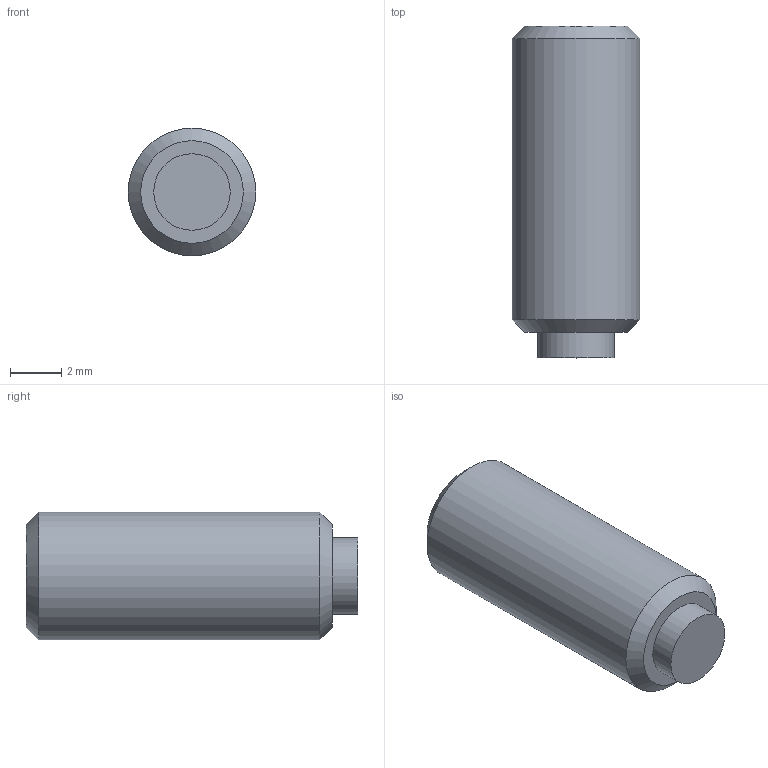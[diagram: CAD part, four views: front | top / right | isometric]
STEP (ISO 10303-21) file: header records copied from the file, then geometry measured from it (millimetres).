
FILE_DESCRIPTION( ( 'STEP AP203' ), '1' );
FILE_NAME( 'C:/Temp/Ganter_Step_05_03_2020/data/3_2/gn913_3/Grub screw GN 913.3-M5-12-KU.stp', '2020-03-13T05:35:34', ( 'License CC BY-ND 4.0' ), ( 'CADENAS' ), ' ', 'PARTsolutions', ' ' );
FILE_SCHEMA( ( 'CONFIG_CONTROL_DESIGN' ) );
Length unit declared in the file: millimetre
Products named in the file (1): _Grub screw GN 913.3-M5-12-KU
Bounding box: 5 x 13 x 5 mm (x, y, z)
Volume: 222.9 mm3; surface area: 253.5 mm2
Topology: 1 solids, 1 shells, 14 faces, 28 edges, 18 vertices
Faces by surface type: plane 10, cylinder 2, cone 2
Full cylindrical faces by diameter (mm): 3 x1, 5 x1
Entity records: 386 total; most frequent: DIRECTION 60, CARTESIAN_POINT 57, ORIENTED_EDGE 48, EDGE_CURVE 24, AXIS2_PLACEMENT_3D 21, EDGE_LOOP 20, VERTEX_POINT 18, LINE 18
